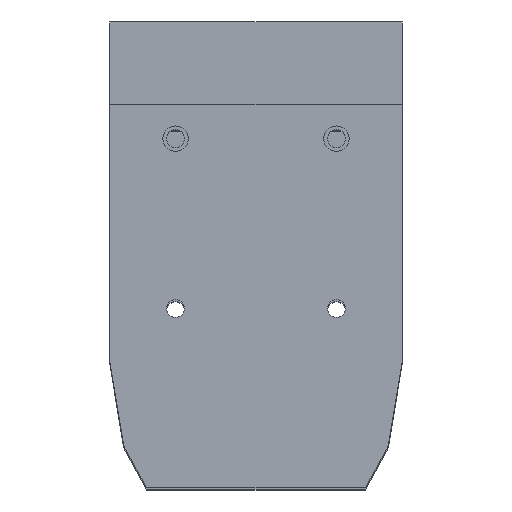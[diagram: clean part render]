
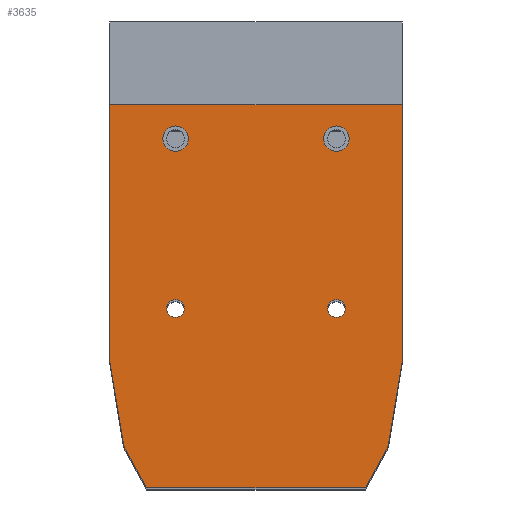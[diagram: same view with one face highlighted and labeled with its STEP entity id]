
A CAD part, top view. The second image highlights one B-rep face of the part: STEP entity #3635.
In plain terms, the highlighted planar face has unit normal (0, 0, 1).
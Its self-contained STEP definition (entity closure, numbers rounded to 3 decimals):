
#468=DIRECTION('',(0.,-1.,0.));
#469=VECTOR('',#468,60.9);
#470=CARTESIAN_POINT('',(-34.5,6.05,178.8));
#471=LINE('',#470,#469);
#472=DIRECTION('',(-1.,0.,0.));
#473=VECTOR('',#472,69.);
#474=CARTESIAN_POINT('',(34.5,6.05,178.8));
#475=LINE('',#474,#473);
#476=DIRECTION('',(0.,1.,0.));
#477=VECTOR('',#476,60.9);
#478=CARTESIAN_POINT('',(34.5,-54.85,178.8));
#479=LINE('',#478,#477);
#480=DIRECTION('',(0.165,0.986,0.));
#481=VECTOR('',#480,19.173);
#482=CARTESIAN_POINT('',(31.336,-73.76,178.8));
#483=LINE('',#482,#481);
#484=CARTESIAN_POINT('',(26.638,-72.974,178.8));
#485=DIRECTION('',(0.,0.,1.));
#486=DIRECTION('',(0.878,-0.478,0.));
#487=AXIS2_PLACEMENT_3D('',#484,#485,#486);
#489=DIRECTION('',(0.478,0.878,0.));
#490=VECTOR('',#489,10.386);
#491=CARTESIAN_POINT('',(25.852,-84.373,178.8));
#492=LINE('',#491,#490);
#493=DIRECTION('',(1.,0.,0.));
#494=VECTOR('',#493,51.704);
#495=CARTESIAN_POINT('',(-25.852,-84.373,178.8));
#496=LINE('',#495,#494);
#497=DIRECTION('',(0.478,-0.878,0.));
#498=VECTOR('',#497,10.386);
#499=CARTESIAN_POINT('',(-30.821,-75.253,178.8));
#500=LINE('',#499,#498);
#501=CARTESIAN_POINT('',(-26.638,-72.974,178.8));
#502=DIRECTION('',(0.,0.,1.));
#503=DIRECTION('',(-0.986,-0.165,0.));
#504=AXIS2_PLACEMENT_3D('',#501,#502,#503);
#506=DIRECTION('',(0.165,-0.986,0.));
#507=VECTOR('',#506,19.173);
#508=CARTESIAN_POINT('',(-34.5,-54.85,178.8));
#509=LINE('',#508,#507);
#510=CARTESIAN_POINT('',(-19.,-1.95,178.8));
#511=DIRECTION('',(0.,0.,1.));
#512=DIRECTION('',(-1.,0.,0.));
#513=AXIS2_PLACEMENT_3D('',#510,#511,#512);
#515=CARTESIAN_POINT('',(-19.,-1.95,178.8));
#516=DIRECTION('',(0.,0.,1.));
#517=DIRECTION('',(1.,0.,0.));
#518=AXIS2_PLACEMENT_3D('',#515,#516,#517);
#520=CARTESIAN_POINT('',(19.,-1.95,178.8));
#521=DIRECTION('',(0.,0.,1.));
#522=DIRECTION('',(-1.,0.,0.));
#523=AXIS2_PLACEMENT_3D('',#520,#521,#522);
#525=CARTESIAN_POINT('',(19.,-1.95,178.8));
#526=DIRECTION('',(0.,0.,1.));
#527=DIRECTION('',(1.,0.,0.));
#528=AXIS2_PLACEMENT_3D('',#525,#526,#527);
#530=CARTESIAN_POINT('',(-19.,-42.05,178.8));
#531=DIRECTION('',(0.,0.,1.));
#532=DIRECTION('',(0.,1.,0.));
#533=AXIS2_PLACEMENT_3D('',#530,#531,#532);
#535=CARTESIAN_POINT('',(-19.,-42.05,178.8));
#536=DIRECTION('',(0.,0.,1.));
#537=DIRECTION('',(0.,-1.,0.));
#538=AXIS2_PLACEMENT_3D('',#535,#536,#537);
#540=CARTESIAN_POINT('',(19.,-42.05,178.8));
#541=DIRECTION('',(0.,0.,1.));
#542=DIRECTION('',(0.,1.,0.));
#543=AXIS2_PLACEMENT_3D('',#540,#541,#542);
#545=CARTESIAN_POINT('',(19.,-42.05,178.8));
#546=DIRECTION('',(0.,0.,1.));
#547=DIRECTION('',(0.,-1.,0.));
#548=AXIS2_PLACEMENT_3D('',#545,#546,#547);
#2610=CARTESIAN_POINT('',(34.5,6.05,178.8));
#2611=CARTESIAN_POINT('',(-34.5,6.05,178.8));
#2612=VERTEX_POINT('',#2610);
#2613=VERTEX_POINT('',#2611);
#2662=CARTESIAN_POINT('',(-34.5,-54.85,178.8));
#2663=VERTEX_POINT('',#2662);
#2664=CARTESIAN_POINT('',(-31.336,-73.76,178.8));
#2665=VERTEX_POINT('',#2664);
#2666=CARTESIAN_POINT('',(-30.821,-75.253,178.8));
#2667=VERTEX_POINT('',#2666);
#2668=CARTESIAN_POINT('',(-25.852,-84.373,178.8));
#2669=VERTEX_POINT('',#2668);
#2670=CARTESIAN_POINT('',(25.852,-84.373,178.8));
#2671=VERTEX_POINT('',#2670);
#2672=CARTESIAN_POINT('',(30.821,-75.253,178.8));
#2673=VERTEX_POINT('',#2672);
#2674=CARTESIAN_POINT('',(31.336,-73.76,178.8));
#2675=VERTEX_POINT('',#2674);
#2676=CARTESIAN_POINT('',(34.5,-54.85,178.8));
#2677=VERTEX_POINT('',#2676);
#2728=CARTESIAN_POINT('',(-22.,-1.95,178.8));
#2729=VERTEX_POINT('',#2728);
#2732=CARTESIAN_POINT('',(-16.,-1.95,178.8));
#2733=VERTEX_POINT('',#2732);
#2760=CARTESIAN_POINT('',(16.,-1.95,178.8));
#2761=VERTEX_POINT('',#2760);
#2764=CARTESIAN_POINT('',(22.,-1.95,178.8));
#2765=VERTEX_POINT('',#2764);
#2782=CARTESIAN_POINT('',(-19.,-39.95,178.8));
#2783=CARTESIAN_POINT('',(-19.,-44.15,178.8));
#2784=VERTEX_POINT('',#2782);
#2785=VERTEX_POINT('',#2783);
#2786=CARTESIAN_POINT('',(19.,-39.95,178.8));
#2787=CARTESIAN_POINT('',(19.,-44.15,178.8));
#2788=VERTEX_POINT('',#2786);
#2789=VERTEX_POINT('',#2787);
#3594=CARTESIAN_POINT('',(-34.5,6.05,178.8));
#3595=DIRECTION('',(0.,0.,1.));
#3596=DIRECTION('',(-1.,0.,0.));
#3597=AXIS2_PLACEMENT_3D('',#3594,#3595,#3596);
#3598=PLANE('',#3597);
#3599=ORIENTED_EDGE('',*,*,#2982,.F.);
#3601=ORIENTED_EDGE('',*,*,#3600,.F.);
#3602=ORIENTED_EDGE('',*,*,#3104,.F.);
#3603=ORIENTED_EDGE('',*,*,#3087,.F.);
#3604=ORIENTED_EDGE('',*,*,#3072,.F.);
#3605=ORIENTED_EDGE('',*,*,#3057,.F.);
#3606=ORIENTED_EDGE('',*,*,#3042,.F.);
#3607=ORIENTED_EDGE('',*,*,#3027,.F.);
#3608=ORIENTED_EDGE('',*,*,#3012,.F.);
#3609=ORIENTED_EDGE('',*,*,#2997,.F.);
#3610=EDGE_LOOP('',(#3599,#3601,#3602,#3603,#3604,#3605,#3606,#3607,#3608,
#3609));
#3611=FACE_OUTER_BOUND('',#3610,.F.);
#3613=ORIENTED_EDGE('',*,*,#3612,.T.);
#3615=ORIENTED_EDGE('',*,*,#3614,.T.);
#3616=EDGE_LOOP('',(#3613,#3615));
#3617=FACE_BOUND('',#3616,.F.);
#3619=ORIENTED_EDGE('',*,*,#3618,.T.);
#3621=ORIENTED_EDGE('',*,*,#3620,.T.);
#3622=EDGE_LOOP('',(#3619,#3621));
#3623=FACE_BOUND('',#3622,.F.);
#3624=ORIENTED_EDGE('',*,*,#3584,.T.);
#3626=ORIENTED_EDGE('',*,*,#3625,.T.);
#3627=EDGE_LOOP('',(#3624,#3626));
#3628=FACE_BOUND('',#3627,.F.);
#3630=ORIENTED_EDGE('',*,*,#3629,.T.);
#3632=ORIENTED_EDGE('',*,*,#3631,.T.);
#3633=EDGE_LOOP('',(#3630,#3632));
#3634=FACE_BOUND('',#3633,.F.);
#3635=ADVANCED_FACE('',(#3611,#3617,#3623,#3628,#3634),#3598,.T.);
#488=CIRCLE('',#487,4.763);
#505=CIRCLE('',#504,4.763);
#514=CIRCLE('',#513,3.);
#519=CIRCLE('',#518,3.);
#524=CIRCLE('',#523,3.);
#529=CIRCLE('',#528,3.);
#534=CIRCLE('',#533,2.1);
#539=CIRCLE('',#538,2.1);
#544=CIRCLE('',#543,2.1);
#549=CIRCLE('',#548,2.1);
#2982=EDGE_CURVE('',#2613,#2663,#471,.T.);
#2997=EDGE_CURVE('',#2663,#2665,#509,.T.);
#3012=EDGE_CURVE('',#2665,#2667,#505,.T.);
#3027=EDGE_CURVE('',#2667,#2669,#500,.T.);
#3042=EDGE_CURVE('',#2669,#2671,#496,.T.);
#3057=EDGE_CURVE('',#2671,#2673,#492,.T.);
#3072=EDGE_CURVE('',#2673,#2675,#488,.T.);
#3087=EDGE_CURVE('',#2675,#2677,#483,.T.);
#3104=EDGE_CURVE('',#2677,#2612,#479,.T.);
#3584=EDGE_CURVE('',#2784,#2785,#534,.T.);
#3600=EDGE_CURVE('',#2612,#2613,#475,.T.);
#3612=EDGE_CURVE('',#2729,#2733,#514,.T.);
#3614=EDGE_CURVE('',#2733,#2729,#519,.T.);
#3618=EDGE_CURVE('',#2761,#2765,#524,.T.);
#3620=EDGE_CURVE('',#2765,#2761,#529,.T.);
#3625=EDGE_CURVE('',#2785,#2784,#539,.T.);
#3629=EDGE_CURVE('',#2788,#2789,#544,.T.);
#3631=EDGE_CURVE('',#2789,#2788,#549,.T.);
